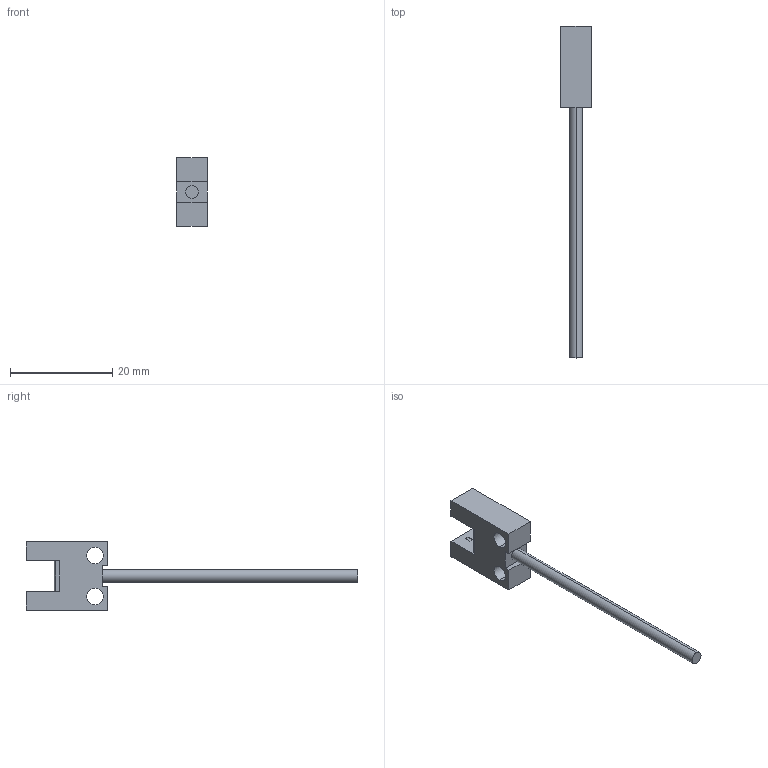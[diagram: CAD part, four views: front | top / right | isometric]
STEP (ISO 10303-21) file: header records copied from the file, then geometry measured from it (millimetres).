
FILE_DESCRIPTION (( 'STEP AP203' ), '1' );
FILE_NAME ('pm-u25.STEP', '2015-07-23T04:39:26', ( '' ), ( '' ), 'SwSTEP 2.0', 'SolidWorks 2010', '' );
FILE_SCHEMA (( 'CONFIG_CONTROL_DESIGN' ));
Length unit declared in the file: millimetre
Products named in the file (1): pm-u25
Bounding box: 6 x 65 x 13.4 mm (x, y, z)
Volume: 1206.5 mm3; surface area: 1268.1 mm2
Topology: 1 solids, 1 shells, 53 faces, 138 edges, 92 vertices
Faces by surface type: plane 47, cylinder 6
Entity records: 1689 total; most frequent: CARTESIAN_POINT 284, ORIENTED_EDGE 276, DIRECTION 258, EDGE_CURVE 138, LINE 126, VECTOR 126, VERTEX_POINT 92, AXIS2_PLACEMENT_3D 66
